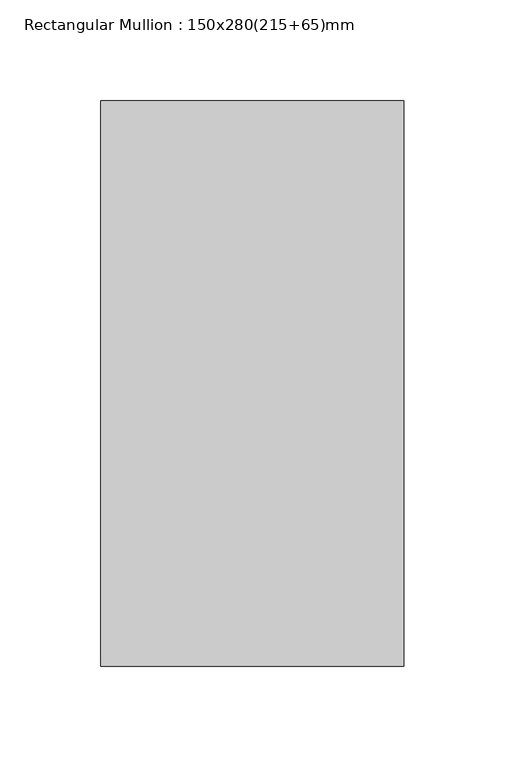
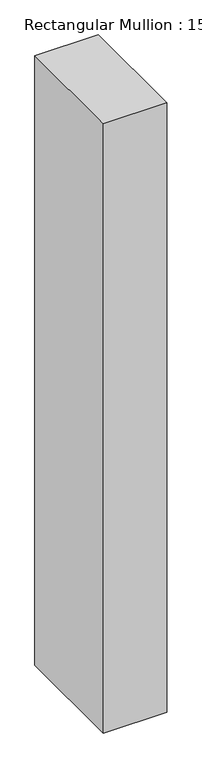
"""IFC4 building model written with IfcOpenShell, lengths in millimetres: member geometry, Rectangular Mullion : 150x280(215+65)mm."""

from ifc_helpers import new_model, si_unit, frame, origin, place, context, project, spatial, polyline, outline, extrude, source, transform, mapped, element, save


def rectangular_mullion_150x280_215_65_mm_07a872d0(model_context):
    return source(origin(), model_context, "Body", "SweptSolid", [
        extrude(outline(polyline([(0.0, 215.0), (0.0, -65.0), (-150.0, -65.0), (-150.0, 215.0), (0.0, 215.0)])), frame((0.0, 0.0, -1519.9942379), z_axis=(0.0, 0.0, 1.0), x_axis=(1.0, 0.0, 0.0)), (0.0, 0.0, 1.0), 1519.9942379),
    ])


if __name__ == "__main__":
    model = new_model("IFC4")
    model_context = context("Model", 3, world=origin())
    ifc_project = project(units=[si_unit("LENGTHUNIT", "METRE", prefix="MILLI")], contexts=[model_context])
    site = spatial("IfcSite", under=ifc_project)
    building = spatial("IfcBuilding", under=site)
    placement = place(None, origin())
    rectangular_mullion_150x280_215_65_mm_shape = rectangular_mullion_150x280_215_65_mm_07a872d0(model_context)
    element("IfcMember", 1, ObjectType="Rectangular Mullion : 150x280(215+65)mm", at=placement, inside=building, context=model_context, shape_type="MappedRepresentation", body=[
        mapped(rectangular_mullion_150x280_215_65_mm_shape, transform((0.0, 0.0, 0.0), x_axis=(1.0, 0.0, 0.0), y_axis=(0.0, 1.0, 0.0), z_axis=(0.0, 0.0, 1.0))),
    ])
    save(model, "model.ifc")
